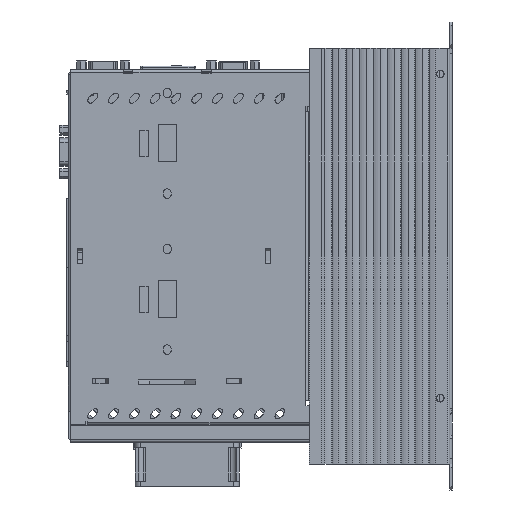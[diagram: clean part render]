
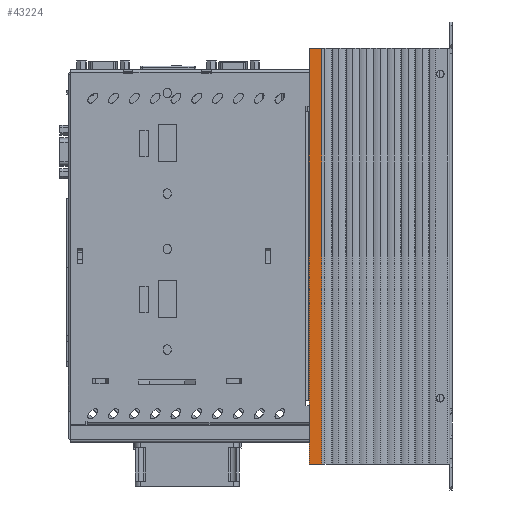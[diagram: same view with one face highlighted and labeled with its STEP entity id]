
A CAD part, left-side view. The second image highlights one B-rep face of the part: STEP entity #43224.
In plain terms, the highlighted planar face has unit normal (-1, 0, 0).
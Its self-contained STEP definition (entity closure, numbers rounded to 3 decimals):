
#33624 = VERTEX_POINT ( 'NONE', #74071 ) ;
#33631 = EDGE_CURVE ( 'NONE', #33624, #33637, #74120, .T. ) ;
#33637 = VERTEX_POINT ( 'NONE', #74100 ) ;
#41938 = EDGE_CURVE ( 'NONE', #41940, #33637, #95000, .T. ) ;
#41940 = VERTEX_POINT ( 'NONE', #95026 ) ;
#43214 = EDGE_CURVE ( 'NONE', #43216, #41940, #97540, .T. ) ;
#43216 = VERTEX_POINT ( 'NONE', #97536 ) ;
#43224 = ADVANCED_FACE ( 'NONE', ( #97589 ), #97574, .T. ) ;
#43227 = EDGE_LOOP ( 'NONE', ( #43229, #43230, #43318, #43321 ) ) ;
#43229 = ORIENTED_EDGE ( 'NONE', *, *, #33631, .F. ) ;
#43230 = ORIENTED_EDGE ( 'NONE', *, *, #43316, .F. ) ;
#43316 = EDGE_CURVE ( 'NONE', #43216, #33624, #97818, .T. ) ;
#43318 = ORIENTED_EDGE ( 'NONE', *, *, #43214, .T. ) ;
#43321 = ORIENTED_EDGE ( 'NONE', *, *, #41938, .T. ) ;
#74071 = CARTESIAN_POINT ( 'NONE',  ( -35., -3.5, -107.5 ) ) ;
#74100 = CARTESIAN_POINT ( 'NONE',  ( -35., 3.5, -107.5 ) ) ;
#74117 = DIRECTION ( 'NONE',  ( 0., 1., 0. ) ) ;
#74118 = VECTOR ( 'NONE', #74117, 1000. ) ;
#74119 = CARTESIAN_POINT ( 'NONE',  ( -35., -3.5, -107.5 ) ) ;
#74120 = LINE ( 'NONE', #74119, #74118 ) ;
#94996 = DIRECTION ( 'NONE',  ( 0., 0., -1. ) ) ;
#94997 = VECTOR ( 'NONE', #94996, 1000. ) ;
#94998 = CARTESIAN_POINT ( 'NONE',  ( -35., 3.5, 132.5 ) ) ;
#95000 = LINE ( 'NONE', #94998, #94997 ) ;
#95026 = CARTESIAN_POINT ( 'NONE',  ( -35., 3.5, 132.5 ) ) ;
#97536 = CARTESIAN_POINT ( 'NONE',  ( -35., -3.5, 132.5 ) ) ;
#97537 = DIRECTION ( 'NONE',  ( 0., 1., 0. ) ) ;
#97538 = VECTOR ( 'NONE', #97537, 1000. ) ;
#97539 = CARTESIAN_POINT ( 'NONE',  ( -35., 3.5, 132.5 ) ) ;
#97540 = LINE ( 'NONE', #97539, #97538 ) ;
#97569 = DIRECTION ( 'NONE',  ( 0., 0., 1. ) ) ;
#97570 = DIRECTION ( 'NONE',  ( -1., 0., 0. ) ) ;
#97571 = CARTESIAN_POINT ( 'NONE',  ( -35., 3.5, 132.5 ) ) ;
#97572 = AXIS2_PLACEMENT_3D ( 'NONE', #97571, #97570, #97569 ) ;
#97574 = PLANE ( 'NONE',  #97572 ) ;
#97589 = FACE_OUTER_BOUND ( 'NONE', #43227, .T. ) ;
#97815 = DIRECTION ( 'NONE',  ( 0., 0., -1. ) ) ;
#97816 = VECTOR ( 'NONE', #97815, 1000. ) ;
#97817 = CARTESIAN_POINT ( 'NONE',  ( -35., -3.5, 132.5 ) ) ;
#97818 = LINE ( 'NONE', #97817, #97816 ) ;
